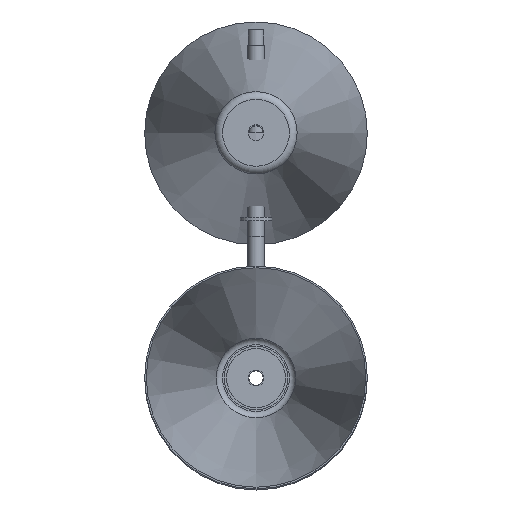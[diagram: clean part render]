
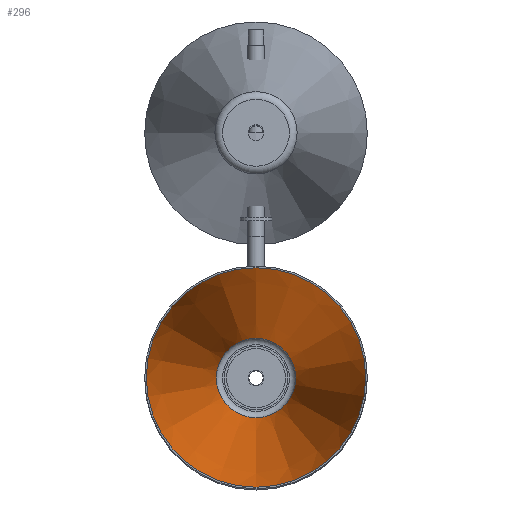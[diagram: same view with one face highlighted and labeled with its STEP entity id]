
A CAD part, top view. The second image highlights one B-rep face of the part: STEP entity #296.
In plain terms, the highlighted conical face has half-angle 12.68 degrees and reference radius 69.024 mm.
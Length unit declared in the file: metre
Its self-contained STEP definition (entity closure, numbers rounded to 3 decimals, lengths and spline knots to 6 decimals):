
#296 = ADVANCED_FACE( '', ( #374, #375 ), #376, .F. );
#374 = FACE_BOUND( '', #509, .T. );
#375 = FACE_OUTER_BOUND( '', #510, .T. );
#376 = CONICAL_SURFACE( '', #511, 0.069024, 0.221 );
#509 = EDGE_LOOP( '', ( #678 ) );
#510 = EDGE_LOOP( '', ( #679 ) );
#511 = AXIS2_PLACEMENT_3D( '', #680, #681, #682 );
#678 = ORIENTED_EDGE( '', *, *, #867, .F. );
#679 = ORIENTED_EDGE( '', *, *, #865, .T. );
#680 = CARTESIAN_POINT( '', ( 0., 0., -0.10022 ) );
#681 = DIRECTION( '', ( 0., 0., -1. ) );
#682 = DIRECTION( '', ( -1., 0., 0. ) );
#865 = EDGE_CURVE( '', #944, #944, #945, .T. );
#867 = EDGE_CURVE( '', #948, #948, #949, .T. );
#944 = VERTEX_POINT( '', #1064 );
#945 = CIRCLE( '', #1065, 0.068975 );
#948 = VERTEX_POINT( '', #1068 );
#949 = CIRCLE( '', #1069, 0.024902 );
#1064 = CARTESIAN_POINT( '', ( -0.068975, 0., -0.1 ) );
#1065 = AXIS2_PLACEMENT_3D( '', #1611, #1612, #1613 );
#1068 = CARTESIAN_POINT( '', ( -0.024902, 0., 0.095878 ) );
#1069 = AXIS2_PLACEMENT_3D( '', #1617, #1618, #1619 );
#1611 = CARTESIAN_POINT( '', ( 0., 0., -0.1 ) );
#1612 = DIRECTION( '', ( 0., 0., -1. ) );
#1613 = DIRECTION( '', ( -1., 0., 0. ) );
#1617 = CARTESIAN_POINT( '', ( 0., 0., 0.095878 ) );
#1618 = DIRECTION( '', ( 0., 0., -1. ) );
#1619 = DIRECTION( '', ( -1., 0., 0. ) );
